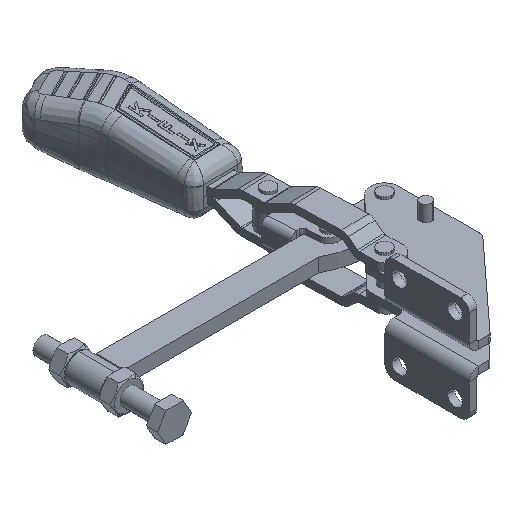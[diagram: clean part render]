
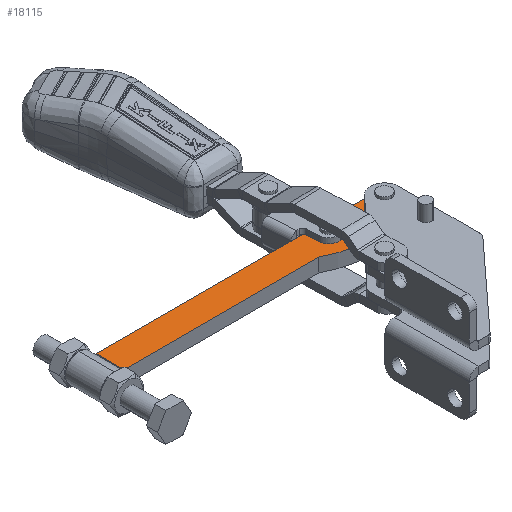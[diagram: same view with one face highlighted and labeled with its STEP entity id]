
A CAD part, isometric view. The second image highlights one B-rep face of the part: STEP entity #18115.
In plain terms, the highlighted planar face has unit normal (0, 0, 1).
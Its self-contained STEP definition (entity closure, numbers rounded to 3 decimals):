
#399 = DIRECTION ( 'NONE',  ( 0., 0., 1. ) ) ;
#435 = CARTESIAN_POINT ( 'NONE',  ( -160., 8., 0. ) ) ;
#849 = CIRCLE ( 'NONE', #15563, 3.2 ) ;
#1153 = ORIENTED_EDGE ( 'NONE', *, *, #23749, .F. ) ;
#1544 = FACE_BOUND ( 'NONE', #24895, .T. ) ;
#1593 = DIRECTION ( 'NONE',  ( 1., 0., 0. ) ) ;
#1922 = CARTESIAN_POINT ( 'NONE',  ( 0., -8., 0. ) ) ;
#2029 = VERTEX_POINT ( 'NONE', #4110 ) ;
#2212 = DIRECTION ( 'NONE',  ( 0., 0., 1. ) ) ;
#2301 = CIRCLE ( 'NONE', #19181, 3.2 ) ;
#2487 = LINE ( 'NONE', #12186, #12206 ) ;
#2522 = DIRECTION ( 'NONE',  ( 0., 0., 1. ) ) ;
#3094 = DIRECTION ( 'NONE',  ( 0., 0., 1. ) ) ;
#3198 = EDGE_CURVE ( 'NONE', #22341, #2029, #2487, .T. ) ;
#4110 = CARTESIAN_POINT ( 'NONE',  ( -112., 8., 0. ) ) ;
#4117 = CIRCLE ( 'NONE', #22668, 3.2 ) ;
#4342 = DIRECTION ( 'NONE',  ( 0., 0., 1. ) ) ;
#4372 = AXIS2_PLACEMENT_3D ( 'NONE', #12006, #399, #13949 ) ;
#4490 = DIRECTION ( 'NONE',  ( 0., 0., 1. ) ) ;
#4776 = CARTESIAN_POINT ( 'NONE',  ( 0., -8., 0. ) ) ;
#4836 = EDGE_CURVE ( 'NONE', #14940, #9074, #20032, .T. ) ;
#4980 = ORIENTED_EDGE ( 'NONE', *, *, #3198, .T. ) ;
#5006 = ORIENTED_EDGE ( 'NONE', *, *, #10328, .F. ) ;
#5131 = CARTESIAN_POINT ( 'NONE',  ( -154.467, 0., 0. ) ) ;
#6337 = DIRECTION ( 'NONE',  ( -1., 0., 0. ) ) ;
#6338 = AXIS2_PLACEMENT_3D ( 'NONE', #16102, #4490, #18042 ) ;
#6356 = PLANE ( 'NONE',  #10929 ) ;
#6663 = EDGE_CURVE ( 'NONE', #19523, #22341, #14497, .T. ) ;
#6937 = CARTESIAN_POINT ( 'NONE',  ( -160., -8., 0. ) ) ;
#8261 = EDGE_LOOP ( 'NONE', ( #1153, #5006 ) ) ;
#8630 = VERTEX_POINT ( 'NONE', #18135 ) ;
#9074 = VERTEX_POINT ( 'NONE', #13690 ) ;
#9383 = EDGE_LOOP ( 'NONE', ( #14762, #4980, #16627, #16393, #15039 ) ) ;
#9660 = VERTEX_POINT ( 'NONE', #16610 ) ;
#10328 = EDGE_CURVE ( 'NONE', #8630, #11309, #4117, .T. ) ;
#10929 = AXIS2_PLACEMENT_3D ( 'NONE', #13962, #2522, #16088 ) ;
#11309 = VERTEX_POINT ( 'NONE', #15746 ) ;
#11843 = FACE_OUTER_BOUND ( 'NONE', #9383, .T. ) ;
#12006 = CARTESIAN_POINT ( 'NONE',  ( -136., -37., 0. ) ) ;
#12186 = CARTESIAN_POINT ( 'NONE',  ( 0., 8., 0. ) ) ;
#12206 = VECTOR ( 'NONE', #6337, 1000. ) ;
#13183 = DIRECTION ( 'NONE',  ( 0., 0., 1. ) ) ;
#13332 = LINE ( 'NONE', #6937, #23664 ) ;
#13690 = CARTESIAN_POINT ( 'NONE',  ( -160., -8., 0. ) ) ;
#13702 = EDGE_CURVE ( 'NONE', #9660, #14659, #849, .T. ) ;
#13808 = CARTESIAN_POINT ( 'NONE',  ( -125.667, 0., 0. ) ) ;
#13949 = DIRECTION ( 'NONE',  ( 1., 0., 0. ) ) ;
#13962 = CARTESIAN_POINT ( 'NONE',  ( -157.667, 0., 0. ) ) ;
#14423 = DIRECTION ( 'NONE',  ( 0., 1., 0. ) ) ;
#14497 = LINE ( 'NONE', #4776, #24228 ) ;
#14659 = VERTEX_POINT ( 'NONE', #5131 ) ;
#14706 = CARTESIAN_POINT ( 'NONE',  ( -157.667, 0., 0. ) ) ;
#14762 = ORIENTED_EDGE ( 'NONE', *, *, #6663, .T. ) ;
#14940 = VERTEX_POINT ( 'NONE', #435 ) ;
#15039 = ORIENTED_EDGE ( 'NONE', *, *, #20271, .T. ) ;
#15377 = EDGE_CURVE ( 'NONE', #14659, #9660, #2301, .T. ) ;
#15563 = AXIS2_PLACEMENT_3D ( 'NONE', #14706, #3094, #16645 ) ;
#15746 = CARTESIAN_POINT ( 'NONE',  ( -122.467, 0., 0. ) ) ;
#15781 = DIRECTION ( 'NONE',  ( 1., 0., 0. ) ) ;
#15958 = CARTESIAN_POINT ( 'NONE',  ( -125.667, 0., 0. ) ) ;
#16088 = DIRECTION ( 'NONE',  ( 1., 0., 0. ) ) ;
#16102 = CARTESIAN_POINT ( 'NONE',  ( -157.667, 0., 0. ) ) ;
#16393 = ORIENTED_EDGE ( 'NONE', *, *, #4836, .T. ) ;
#16610 = CARTESIAN_POINT ( 'NONE',  ( -160.867, 0., 0. ) ) ;
#16627 = ORIENTED_EDGE ( 'NONE', *, *, #19609, .T. ) ;
#16645 = DIRECTION ( 'NONE',  ( 1., 0., 0. ) ) ;
#17142 = CARTESIAN_POINT ( 'NONE',  ( 0., 8., 0. ) ) ;
#17299 = CIRCLE ( 'NONE', #4372, 51. ) ;
#17845 = ORIENTED_EDGE ( 'NONE', *, *, #15377, .F. ) ;
#17904 = DIRECTION ( 'NONE',  ( 1., 0., 0. ) ) ;
#18042 = DIRECTION ( 'NONE',  ( 1., 0., 0. ) ) ;
#18115 = ADVANCED_FACE ( 'NONE', ( #1544, #21556, #11843 ), #6356, .T. ) ;
#18135 = CARTESIAN_POINT ( 'NONE',  ( -128.867, 0., 0. ) ) ;
#19181 = AXIS2_PLACEMENT_3D ( 'NONE', #24839, #13183, #1593 ) ;
#19523 = VERTEX_POINT ( 'NONE', #1922 ) ;
#19609 = EDGE_CURVE ( 'NONE', #2029, #14940, #17299, .T. ) ;
#19708 = AXIS2_PLACEMENT_3D ( 'NONE', #13808, #2212, #15781 ) ;
#20032 = CIRCLE ( 'NONE', #6338, 8.333 ) ;
#20190 = CIRCLE ( 'NONE', #19708, 3.2 ) ;
#20271 = EDGE_CURVE ( 'NONE', #9074, #19523, #13332, .T. ) ;
#20490 = DIRECTION ( 'NONE',  ( 1., 0., 0. ) ) ;
#21556 = FACE_BOUND ( 'NONE', #8261, .T. ) ;
#22341 = VERTEX_POINT ( 'NONE', #17142 ) ;
#22668 = AXIS2_PLACEMENT_3D ( 'NONE', #15958, #4342, #17904 ) ;
#23664 = VECTOR ( 'NONE', #20490, 1000. ) ;
#23749 = EDGE_CURVE ( 'NONE', #11309, #8630, #20190, .T. ) ;
#24065 = ORIENTED_EDGE ( 'NONE', *, *, #13702, .F. ) ;
#24228 = VECTOR ( 'NONE', #14423, 1000. ) ;
#24839 = CARTESIAN_POINT ( 'NONE',  ( -157.667, 0., 0. ) ) ;
#24895 = EDGE_LOOP ( 'NONE', ( #17845, #24065 ) ) ;
